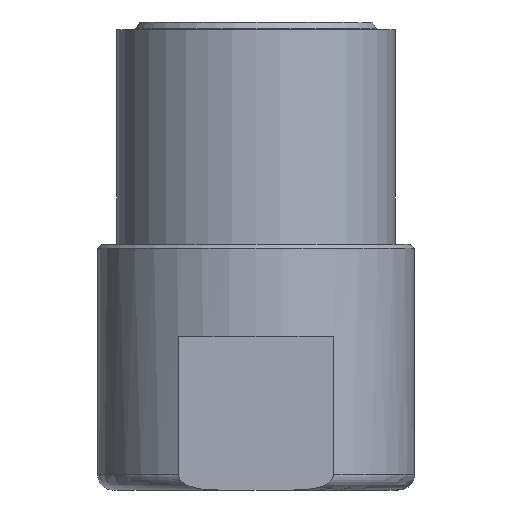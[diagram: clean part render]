
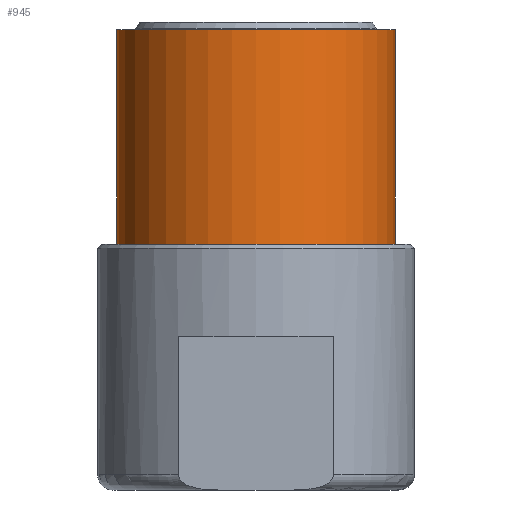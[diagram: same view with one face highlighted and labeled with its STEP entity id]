
A CAD part, front view. The second image highlights one B-rep face of the part: STEP entity #945.
In plain terms, the highlighted cylindrical face has radius 18.15 mm (diameter 36.3 mm), a partial arc.
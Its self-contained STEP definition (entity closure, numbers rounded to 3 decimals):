
#22 = VECTOR ( 'NONE', #515, 1000. ) ;
#27 = AXIS2_PLACEMENT_3D ( 'NONE', #499, #500, #501 ) ;
#28 = CIRCLE ( 'NONE', #27, 18.15 ) ;
#140 = ORIENTED_EDGE ( 'NONE', *, *, #973, .T. ) ;
#141 = ORIENTED_EDGE ( 'NONE', *, *, #979, .T. ) ;
#142 = ORIENTED_EDGE ( 'NONE', *, *, #941, .F. ) ;
#143 = ORIENTED_EDGE ( 'NONE', *, *, #978, .F. ) ;
#256 = CIRCLE ( 'NONE', #272, 18.15 ) ;
#272 = AXIS2_PLACEMENT_3D ( 'NONE', #910, #911, #912 ) ;
#274 = AXIS2_PLACEMENT_3D ( 'NONE', #427, #422, #428 ) ;
#331 = EDGE_LOOP ( 'NONE', ( #143, #142, #141, #140 ) ) ;
#422 = DIRECTION ( 'NONE',  ( 0., 0., -1. ) ) ;
#426 = FACE_OUTER_BOUND ( 'NONE', #331, .T. ) ;
#427 = CARTESIAN_POINT ( 'NONE',  ( 0., 0., -1. ) ) ;
#428 = DIRECTION ( 'NONE',  ( -1., 0., 0. ) ) ;
#499 = CARTESIAN_POINT ( 'NONE',  ( 0., 0., -36. ) ) ;
#500 = DIRECTION ( 'NONE',  ( 0., 0., 1. ) ) ;
#501 = DIRECTION ( 'NONE',  ( 1., 0., 0. ) ) ;
#506 = LINE ( 'NONE', #507, #22 ) ;
#507 = CARTESIAN_POINT ( 'NONE',  ( 18.15, 0., -1. ) ) ;
#515 = DIRECTION ( 'NONE',  ( 0., 0., -1. ) ) ;
#516 = LINE ( 'NONE', #517, #1051 ) ;
#517 = CARTESIAN_POINT ( 'NONE',  ( -18.15, 0., -1. ) ) ;
#518 = DIRECTION ( 'NONE',  ( 0., 0., -1. ) ) ;
#598 = CARTESIAN_POINT ( 'NONE',  ( -18.15, 0., -1. ) ) ;
#599 = CARTESIAN_POINT ( 'NONE',  ( 18.15, 0., -36. ) ) ;
#609 = CARTESIAN_POINT ( 'NONE',  ( 18.15, 0., -1. ) ) ;
#610 = CARTESIAN_POINT ( 'NONE',  ( -18.15, 0., -36. ) ) ;
#910 = CARTESIAN_POINT ( 'NONE',  ( 0., 0., -1. ) ) ;
#911 = DIRECTION ( 'NONE',  ( 0., 0., 1. ) ) ;
#912 = DIRECTION ( 'NONE',  ( 1., 0., 0. ) ) ;
#917 = CYLINDRICAL_SURFACE ( 'NONE', #274, 18.15 ) ;
#941 = EDGE_CURVE ( 'NONE', #1026, #1037, #256, .T. ) ;
#945 = ADVANCED_FACE ( 'NONE', ( #426 ), #917, .T. ) ;
#973 = EDGE_CURVE ( 'NONE', #1038, #1027, #28, .T. ) ;
#978 = EDGE_CURVE ( 'NONE', #1037, #1027, #506, .T. ) ;
#979 = EDGE_CURVE ( 'NONE', #1026, #1038, #516, .T. ) ;
#1026 = VERTEX_POINT ( 'NONE', #598 ) ;
#1027 = VERTEX_POINT ( 'NONE', #599 ) ;
#1037 = VERTEX_POINT ( 'NONE', #609 ) ;
#1038 = VERTEX_POINT ( 'NONE', #610 ) ;
#1051 = VECTOR ( 'NONE', #518, 1000. ) ;
